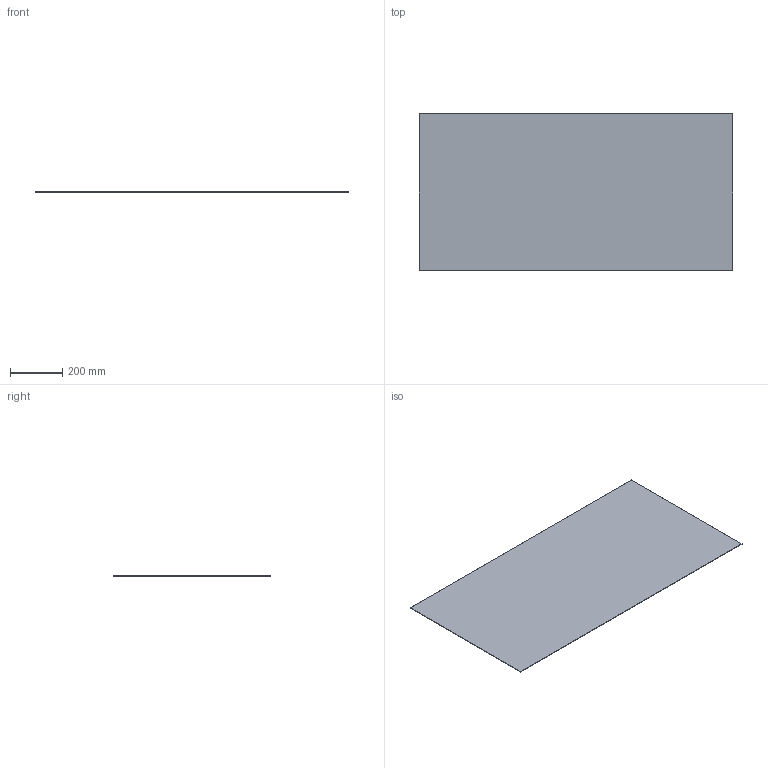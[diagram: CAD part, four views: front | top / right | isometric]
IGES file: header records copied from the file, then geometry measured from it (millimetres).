
Start section: SolidWorks IGES file using analytic representation for surfaces
Global section: file name: \\UTENTI\Dati Utenti\Tecnico\DC\2D - 3D per sito\3D superfici\DeCastelli-3D-Forma 60x120.igs; native system: SolidWorks 2022; preprocessor: SolidWorks 2022; author: Silviad; date: 240808.092954; units: millimetre
Bounding box: 1200 x 600 x 2 mm (x, y, z)
Surface area: 1444800 mm2 (no closed solid volume)
Topology: 0 solids, 0 shells, 4 faces, 16 edges, 16 vertices
Faces by surface type: bspline 4
